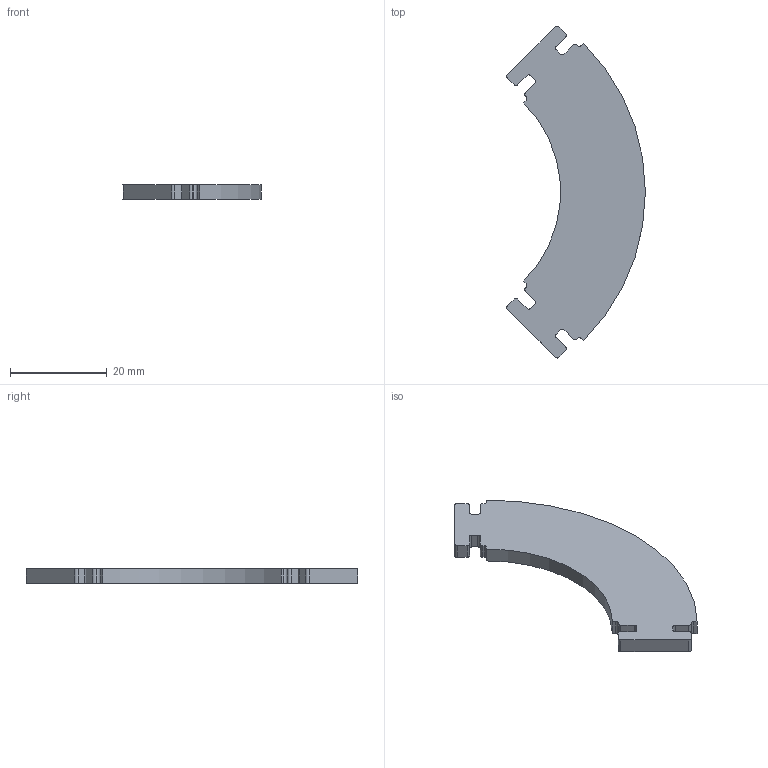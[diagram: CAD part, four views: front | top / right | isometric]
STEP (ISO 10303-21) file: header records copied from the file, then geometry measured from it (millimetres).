
FILE_DESCRIPTION(/* description */ (''),/* implementation_level */ '2;1');
FILE_NAME(/* name */ 'Z:\Diseños\Autodesk\FabAcademy\Semana3-90Angle.stp',/* time_stamp */ '2017-02-14T12:51:37-05:00',/* author */ ('diego'),/* organization */ (''),/* preprocessor_version */ 'ST-DEVELOPER v16.5',/* originating_system */ 'Autodesk Inventor 2017',/* authorisation */ '');
FILE_SCHEMA (('AUTOMOTIVE_DESIGN { 1 0 10303 214 3 1 1 }'));
Length unit declared in the file: millimetre
Products named in the file (1): Semana3-90Angle
Bounding box: 28.63 x 68.55 x 3 mm (x, y, z)
Volume: 3351.3 mm3; surface area: 2819.5 mm2
Topology: 1 solids, 1 shells, 54 faces, 156 edges, 104 vertices
Faces by surface type: plane 28, cylinder 26
Entity records: 1822 total; most frequent: DIRECTION 318, CARTESIAN_POINT 315, ORIENTED_EDGE 312, EDGE_CURVE 156, AXIS2_PLACEMENT_3D 107, LINE 104, VECTOR 104, VERTEX_POINT 104
